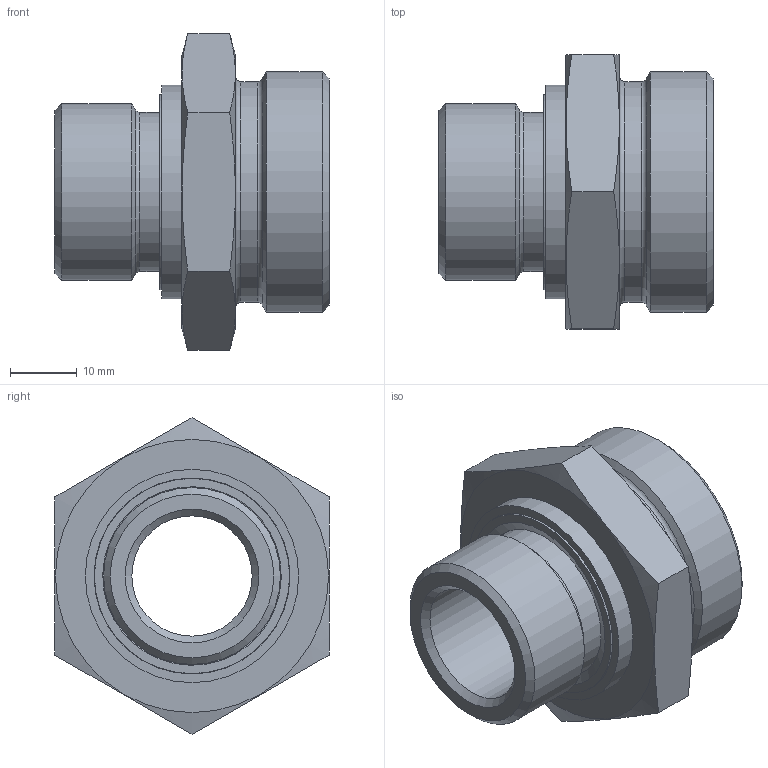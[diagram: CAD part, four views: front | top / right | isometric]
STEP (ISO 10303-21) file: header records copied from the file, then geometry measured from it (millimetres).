
FILE_DESCRIPTION( ( 'Unknown' ), '1' );
FILE_NAME( 'C:/Users/p.nanko/Desktop/3D SR/XGE28LED06.stp', 'Unknown', ( 'Peter Nanko' ), ( 'Armaturen Arndt' ), 'PSStep 14.0', 'Solid Edge ST4', ' ' );
FILE_SCHEMA( ( 'AUTOMOTIVE_DESIGN { 1 0 10303 214 1 1 1 1 }' ) );
Length unit declared in the file: millimetre
Products named in the file (3): Assem1; ED06; XGE28LED063
Assembly tree (2 placements, depth 2):
  Assem1
    ED06
    XGE28LED063
Bounding box: 41 x 41 x 47.34 mm (x, y, z)
Volume: 22395 mm3; surface area: 10134.2 mm2
Topology: 2 solids, 2 shells, 38 faces, 75 edges, 46 vertices
Faces by surface type: plane 15, cylinder 10, cone 9, torus 4
Full cylindrical faces by diameter (mm): 18 x1, 23.8 x1, 23.9 x1, 26.441 x1, 28 x1, 29.2 x1, 29.3 x1, 31.9 x1, 33 x1, 36 x1
Entity records: 1274 total; most frequent: CARTESIAN_POINT 233, DIRECTION 150, ORIENTED_EDGE 98, AXIS2_PLACEMENT_3D 72, EDGE_LOOP 70, FACE_OUTER_BOUND 52, EDGE_CURVE 49, VERTEX_POINT 43
